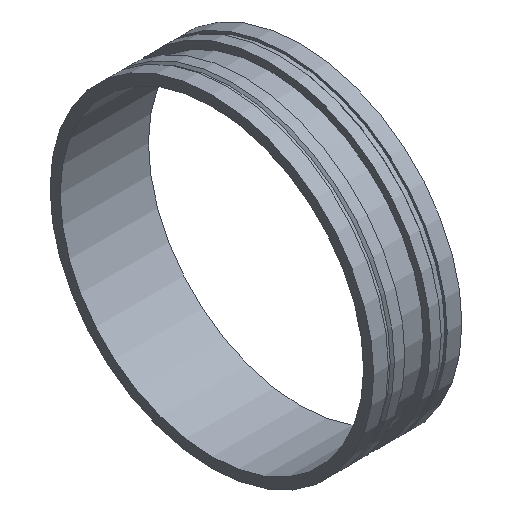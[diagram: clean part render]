
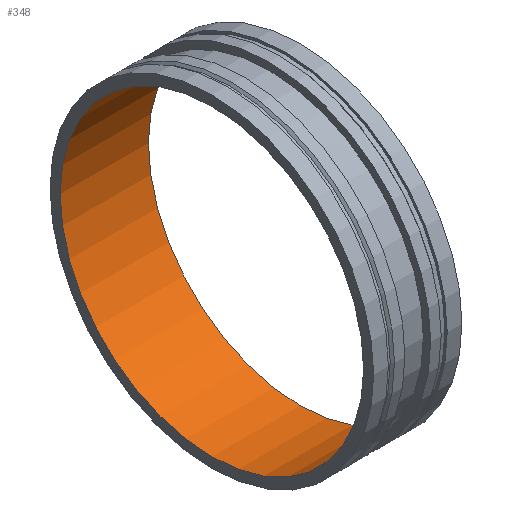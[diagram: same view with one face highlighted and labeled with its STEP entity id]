
A CAD part, isometric view. The second image highlights one B-rep face of the part: STEP entity #348.
In plain terms, the highlighted cylindrical face has radius 523.875 mm (diameter 1047.75 mm), a full revolution.
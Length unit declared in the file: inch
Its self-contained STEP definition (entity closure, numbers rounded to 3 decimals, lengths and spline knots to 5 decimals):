
#56=LINE('',#654,#66);
#66=VECTOR('',#537,20.625);
#74=CYLINDRICAL_SURFACE('',#416,20.625);
#96=FACE_OUTER_BOUND('',#118,.T.);
#118=EDGE_LOOP('',(#303,#304,#305,#306,#307,#308));
#121=CIRCLE('',#372,20.625);
#122=CIRCLE('',#373,20.625);
#149=CIRCLE('',#414,20.625);
#150=CIRCLE('',#415,20.625);
#153=VERTEX_POINT('',#570);
#154=VERTEX_POINT('',#571);
#181=VERTEX_POINT('',#649);
#182=VERTEX_POINT('',#650);
#185=EDGE_CURVE('',#153,#154,#121,.T.);
#186=EDGE_CURVE('',#154,#153,#122,.T.);
#222=EDGE_CURVE('',#181,#182,#149,.T.);
#223=EDGE_CURVE('',#182,#181,#150,.T.);
#224=EDGE_CURVE('',#182,#154,#56,.T.);
#303=ORIENTED_EDGE('',*,*,#222,.T.);
#304=ORIENTED_EDGE('',*,*,#224,.T.);
#305=ORIENTED_EDGE('',*,*,#185,.F.);
#306=ORIENTED_EDGE('',*,*,#186,.F.);
#307=ORIENTED_EDGE('',*,*,#224,.F.);
#308=ORIENTED_EDGE('',*,*,#223,.T.);
#348=ADVANCED_FACE('',(#96),#74,.F.);
#372=AXIS2_PLACEMENT_3D('',#572,#438,#439);
#373=AXIS2_PLACEMENT_3D('',#573,#440,#441);
#414=AXIS2_PLACEMENT_3D('',#651,#531,#532);
#415=AXIS2_PLACEMENT_3D('',#652,#533,#534);
#416=AXIS2_PLACEMENT_3D('',#653,#535,#536);
#438=DIRECTION('center_axis',(1.,0.,0.));
#439=DIRECTION('ref_axis',(0.,0.,-1.));
#440=DIRECTION('center_axis',(1.,0.,0.));
#441=DIRECTION('ref_axis',(0.,0.,-1.));
#531=DIRECTION('center_axis',(1.,0.,0.));
#532=DIRECTION('ref_axis',(0.,0.,-1.));
#533=DIRECTION('center_axis',(1.,0.,0.));
#534=DIRECTION('ref_axis',(0.,0.,-1.));
#535=DIRECTION('center_axis',(1.,0.,0.));
#536=DIRECTION('ref_axis',(0.,1.,0.));
#537=DIRECTION('',(-1.,0.,0.));
#570=CARTESIAN_POINT('',(0.,20.625,0.));
#571=CARTESIAN_POINT('',(0.,-20.625,0.));
#572=CARTESIAN_POINT('Origin',(0.,0.,
0.));
#573=CARTESIAN_POINT('Origin',(0.,0.,
0.));
#649=CARTESIAN_POINT('',(12.,20.625,0.));
#650=CARTESIAN_POINT('',(12.,-20.625,0.));
#651=CARTESIAN_POINT('Origin',(12.,0.,0.));
#652=CARTESIAN_POINT('Origin',(12.,0.,0.));
#653=CARTESIAN_POINT('Origin',(6.,0.,0.));
#654=CARTESIAN_POINT('',(6.,-20.625,0.));
